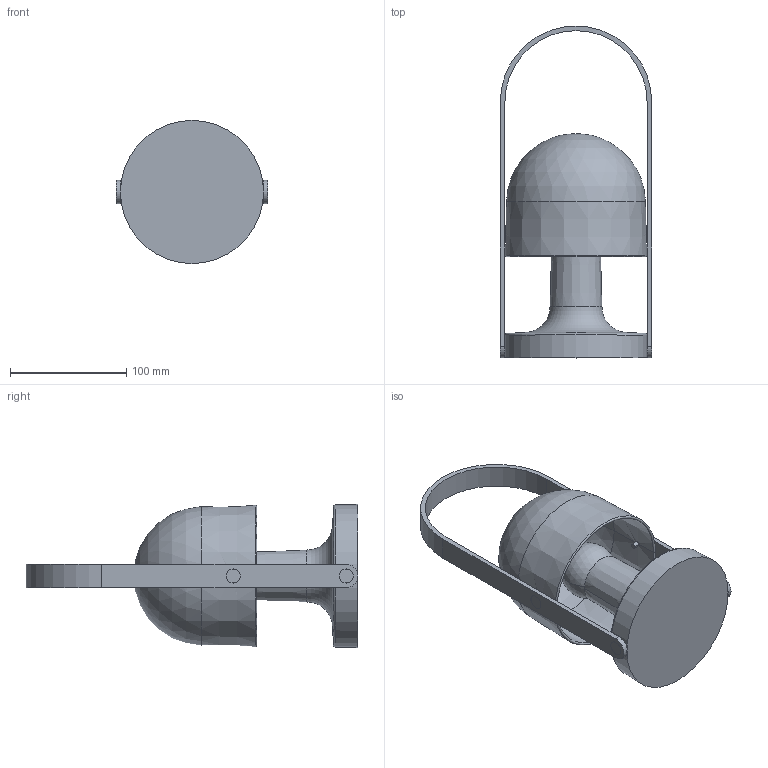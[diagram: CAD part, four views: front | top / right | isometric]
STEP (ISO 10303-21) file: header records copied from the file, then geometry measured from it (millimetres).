
FILE_DESCRIPTION((''),'2;1');
FILE_NAME('FOLLOWME_ASM','2014-07-15T',('oftec'),(''),'PRO/ENGINEER BY PARAMETRIC TECHNOLOGY CORPORATION, 2012130','PRO/ENGINEER BY PARAMETRIC TECHNOLOGY CORPORATION, 2012130','');
FILE_SCHEMA(('CONFIG_CONTROL_DESIGN'));
Length unit declared in the file: millimetre
Products named in the file (8): 657_002; 657_006; 657-001; 657-012; 657_005; 657_003; 657-016; FOLLOWME_ASM
Assembly tree (9 placements, depth 2):
  FOLLOWME_ASM
    657_002
    657_006
    657-001
    657-012
    657_005  x2
    657_003  x2
    657-016
Bounding box: 130 x 285 x 123 mm (x, y, z)
Volume: 520445.2 mm3; surface area: 164564.4 mm2
Topology: 9 solids, 9 shells, 113 faces, 253 edges, 156 vertices
Faces by surface type: cylinder 54, plane 29, cone 8, torus 8, sphere 8, bspline 6
Entity records: 3448 total; most frequent: CARTESIAN_POINT 973, DIRECTION 544, ORIENTED_EDGE 442, AXIS2_PLACEMENT_3D 237, EDGE_CURVE 221, VERTEX_POINT 140, CIRCLE 127, EDGE_LOOP 119
